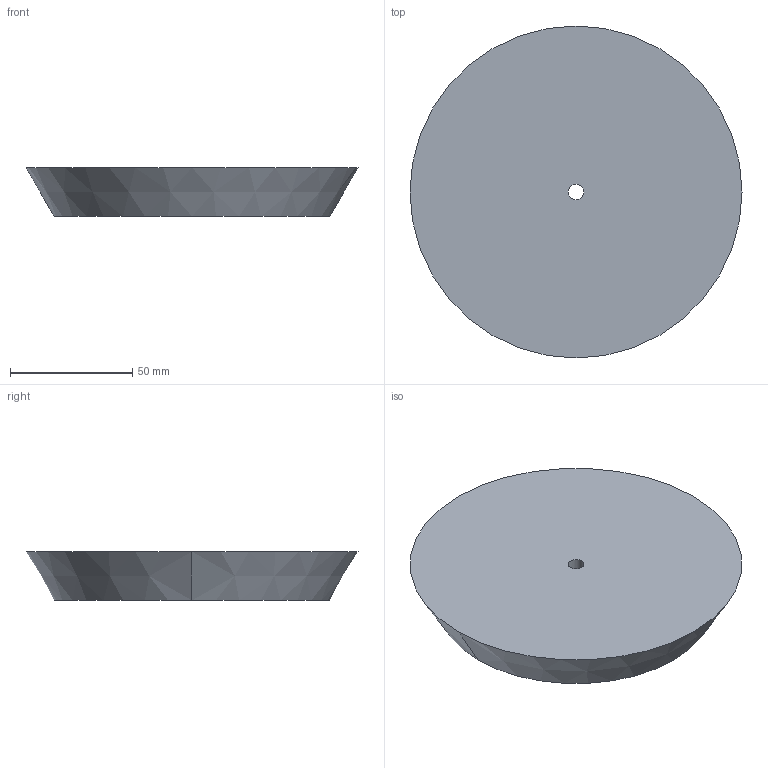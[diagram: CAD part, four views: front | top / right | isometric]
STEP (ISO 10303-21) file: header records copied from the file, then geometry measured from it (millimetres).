
FILE_DESCRIPTION(('CATIA V5 STEP Exchange'),'2;1');
FILE_NAME('C:\Users\andres.garcia\OneDrive - IQS\ASIGNATURAS\DAO\Controles\2223\c0\c1-GRACIA_Margarita-tapon.stp','2023-02-03T08:22:04+00:00',('none'),('none'),'CATIA Version 5-6 Release 2013 SP6','CATIA V5 STEP AP203','none');
FILE_SCHEMA(('CONFIG_CONTROL_DESIGN'));
Length unit declared in the file: millimetre
Products named in the file (1): c1-GRACIA_Margarita-tapon
Bounding box: 136 x 136 x 20 mm (x, y, z)
Volume: 243328 mm3; surface area: 33910.1 mm2
Topology: 1 solids, 1 shells, 6 faces, 12 edges, 8 vertices
Faces by surface type: cylinder 2, plane 2, cone 2
Entity records: 196 total; most frequent: CARTESIAN_POINT 26, ORIENTED_EDGE 24, DIRECTION 22, AXIS2_PLACEMENT_3D 14, EDGE_CURVE 12, CIRCLE 8, EDGE_LOOP 8, VERTEX_POINT 8
